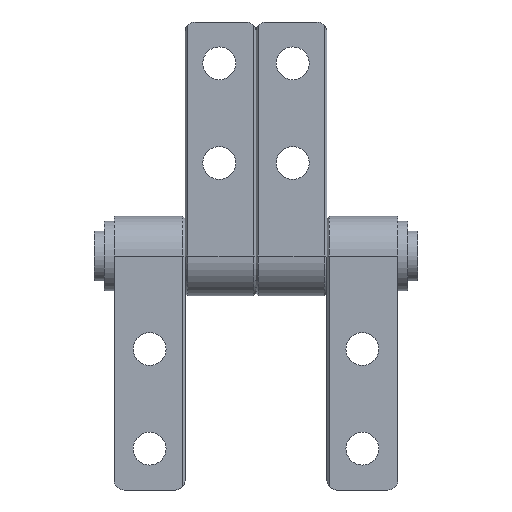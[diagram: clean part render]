
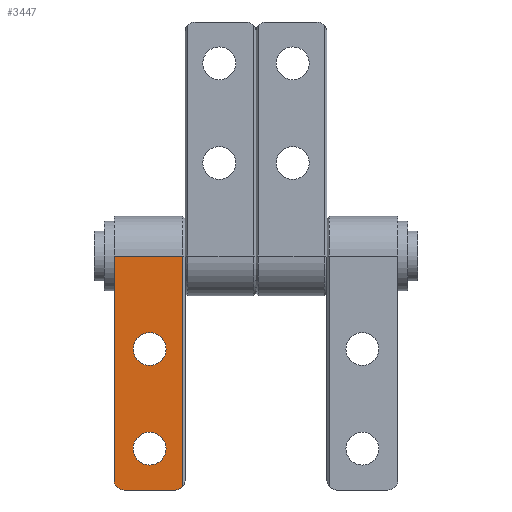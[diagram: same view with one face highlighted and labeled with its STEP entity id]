
A CAD part, front view. The second image highlights one B-rep face of the part: STEP entity #3447.
In plain terms, the highlighted planar face has unit normal (0, -1, 0).
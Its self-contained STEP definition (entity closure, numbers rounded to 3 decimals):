
#2 = CARTESIAN_POINT ( 'NONE',  ( -14.25, -4., -22.5 ) ) ;
#15 = CIRCLE ( 'NONE', #1283, 1. ) ;
#48 = CARTESIAN_POINT ( 'NONE',  ( -10.687, -4., -19.35 ) ) ;
#91 = DIRECTION ( 'NONE',  ( 0., 1., 0. ) ) ;
#104 = DIRECTION ( 'NONE',  ( 0., 0., -1. ) ) ;
#112 = LINE ( 'NONE', #1389, #564 ) ;
#131 = ORIENTED_EDGE ( 'NONE', *, *, #3169, .T. ) ;
#159 = AXIS2_PLACEMENT_3D ( 'NONE', #224, #2109, #1863 ) ;
#207 = VERTEX_POINT ( 'NONE', #2363 ) ;
#224 = CARTESIAN_POINT ( 'NONE',  ( -10.688, -4., -9.35 ) ) ;
#272 = CARTESIAN_POINT ( 'NONE',  ( -7.375, -4., 0. ) ) ;
#282 = EDGE_CURVE ( 'NONE', #1864, #3532, #112, .T. ) ;
#347 = VERTEX_POINT ( 'NONE', #2425 ) ;
#350 = VECTOR ( 'NONE', #104, 1000. ) ;
#406 = EDGE_CURVE ( 'NONE', #2142, #885, #1150, .T. ) ;
#536 = EDGE_LOOP ( 'NONE', ( #3683, #3218 ) ) ;
#564 = VECTOR ( 'NONE', #1631, 1000. ) ;
#606 = FACE_BOUND ( 'NONE', #536, .T. ) ;
#612 = EDGE_CURVE ( 'NONE', #885, #2142, #3254, .T. ) ;
#649 = CARTESIAN_POINT ( 'NONE',  ( -14.25, -4., 0. ) ) ;
#673 = AXIS2_PLACEMENT_3D ( 'NONE', #1858, #924, #4147 ) ;
#681 = ORIENTED_EDGE ( 'NONE', *, *, #861, .T. ) ;
#707 = DIRECTION ( 'NONE',  ( 0., -1., 0. ) ) ;
#719 = ORIENTED_EDGE ( 'NONE', *, *, #1572, .T. ) ;
#727 = CARTESIAN_POINT ( 'NONE',  ( -8.125, -4., -22.5 ) ) ;
#787 = CARTESIAN_POINT ( 'NONE',  ( -10.687, -4., -19.35 ) ) ;
#809 = CARTESIAN_POINT ( 'NONE',  ( -13.25, -4., -23.5 ) ) ;
#861 = EDGE_CURVE ( 'NONE', #3991, #1406, #15, .T. ) ;
#885 = VERTEX_POINT ( 'NONE', #2169 ) ;
#905 = DIRECTION ( 'NONE',  ( 0., 0., 1. ) ) ;
#924 = DIRECTION ( 'NONE',  ( 0., 1., 0. ) ) ;
#929 = CIRCLE ( 'NONE', #3015, 1.65 ) ;
#937 = EDGE_LOOP ( 'NONE', ( #2121, #2245, #1462, #1948, #719, #681 ) ) ;
#1042 = EDGE_CURVE ( 'NONE', #347, #207, #3869, .T. ) ;
#1071 = DIRECTION ( 'NONE',  ( 0., 0., 1. ) ) ;
#1150 = CIRCLE ( 'NONE', #2236, 1.65 ) ;
#1256 = DIRECTION ( 'NONE',  ( 0., 0., 1. ) ) ;
#1283 = AXIS2_PLACEMENT_3D ( 'NONE', #2850, #4145, #1256 ) ;
#1389 = CARTESIAN_POINT ( 'NONE',  ( -7.125, -4., 0. ) ) ;
#1406 = VERTEX_POINT ( 'NONE', #809 ) ;
#1462 = ORIENTED_EDGE ( 'NONE', *, *, #3082, .T. ) ;
#1564 = FACE_BOUND ( 'NONE', #2220, .T. ) ;
#1572 = EDGE_CURVE ( 'NONE', #3532, #3991, #3833, .T. ) ;
#1631 = DIRECTION ( 'NONE',  ( -1., 0., 0. ) ) ;
#1704 = DIRECTION ( 'NONE',  ( 0., 0., 1. ) ) ;
#1786 = DIRECTION ( 'NONE',  ( -1., 0., 0. ) ) ;
#1810 = DIRECTION ( 'NONE',  ( 0., 0., 1. ) ) ;
#1852 = CARTESIAN_POINT ( 'NONE',  ( -7.125, -4., -23.5 ) ) ;
#1858 = CARTESIAN_POINT ( 'NONE',  ( -7.125, -4., 0. ) ) ;
#1863 = DIRECTION ( 'NONE',  ( 0., 0., 1. ) ) ;
#1864 = VERTEX_POINT ( 'NONE', #272 ) ;
#1919 = AXIS2_PLACEMENT_3D ( 'NONE', #727, #707, #2295 ) ;
#1948 = ORIENTED_EDGE ( 'NONE', *, *, #282, .T. ) ;
#2068 = VECTOR ( 'NONE', #1786, 1000. ) ;
#2107 = VERTEX_POINT ( 'NONE', #3087 ) ;
#2109 = DIRECTION ( 'NONE',  ( 0., 1., 0. ) ) ;
#2121 = ORIENTED_EDGE ( 'NONE', *, *, #2675, .F. ) ;
#2133 = VECTOR ( 'NONE', #1704, 1000. ) ;
#2142 = VERTEX_POINT ( 'NONE', #3735 ) ;
#2167 = DIRECTION ( 'NONE',  ( 0., 1., 0. ) ) ;
#2169 = CARTESIAN_POINT ( 'NONE',  ( -10.688, -4., -11. ) ) ;
#2200 = ORIENTED_EDGE ( 'NONE', *, *, #2772, .T. ) ;
#2220 = EDGE_LOOP ( 'NONE', ( #2200, #131 ) ) ;
#2236 = AXIS2_PLACEMENT_3D ( 'NONE', #3815, #3130, #905 ) ;
#2245 = ORIENTED_EDGE ( 'NONE', *, *, #1042, .T. ) ;
#2247 = VERTEX_POINT ( 'NONE', #3575 ) ;
#2295 = DIRECTION ( 'NONE',  ( 0., 0., 1. ) ) ;
#2351 = CARTESIAN_POINT ( 'NONE',  ( -7.375, -4., 0. ) ) ;
#2363 = CARTESIAN_POINT ( 'NONE',  ( -7.375, -4., -23.161 ) ) ;
#2425 = CARTESIAN_POINT ( 'NONE',  ( -8.125, -4., -23.5 ) ) ;
#2511 = FACE_OUTER_BOUND ( 'NONE', #937, .T. ) ;
#2610 = CARTESIAN_POINT ( 'NONE',  ( -14.25, -4., 0. ) ) ;
#2675 = EDGE_CURVE ( 'NONE', #347, #1406, #3743, .T. ) ;
#2772 = EDGE_CURVE ( 'NONE', #2107, #2247, #929, .T. ) ;
#2850 = CARTESIAN_POINT ( 'NONE',  ( -13.25, -4., -22.5 ) ) ;
#3015 = AXIS2_PLACEMENT_3D ( 'NONE', #787, #2167, #1810 ) ;
#3082 = EDGE_CURVE ( 'NONE', #207, #1864, #3301, .T. ) ;
#3087 = CARTESIAN_POINT ( 'NONE',  ( -10.687, -4., -17.7 ) ) ;
#3130 = DIRECTION ( 'NONE',  ( 0., 1., 0. ) ) ;
#3169 = EDGE_CURVE ( 'NONE', #2247, #2107, #4096, .T. ) ;
#3218 = ORIENTED_EDGE ( 'NONE', *, *, #612, .T. ) ;
#3254 = CIRCLE ( 'NONE', #159, 1.65 ) ;
#3301 = LINE ( 'NONE', #2351, #2133 ) ;
#3447 = ADVANCED_FACE ( 'NONE', ( #606, #1564, #2511 ), #3813, .F. ) ;
#3532 = VERTEX_POINT ( 'NONE', #649 ) ;
#3575 = CARTESIAN_POINT ( 'NONE',  ( -10.687, -4., -21. ) ) ;
#3683 = ORIENTED_EDGE ( 'NONE', *, *, #406, .T. ) ;
#3735 = CARTESIAN_POINT ( 'NONE',  ( -10.688, -4., -7.7 ) ) ;
#3743 = LINE ( 'NONE', #1852, #2068 ) ;
#3813 = PLANE ( 'NONE',  #673 ) ;
#3815 = CARTESIAN_POINT ( 'NONE',  ( -10.688, -4., -9.35 ) ) ;
#3833 = LINE ( 'NONE', #2610, #350 ) ;
#3869 = CIRCLE ( 'NONE', #1919, 1. ) ;
#3894 = AXIS2_PLACEMENT_3D ( 'NONE', #48, #91, #1071 ) ;
#3991 = VERTEX_POINT ( 'NONE', #2 ) ;
#4096 = CIRCLE ( 'NONE', #3894, 1.65 ) ;
#4145 = DIRECTION ( 'NONE',  ( 0., -1., 0. ) ) ;
#4147 = DIRECTION ( 'NONE',  ( 0., 0., 1. ) ) ;
